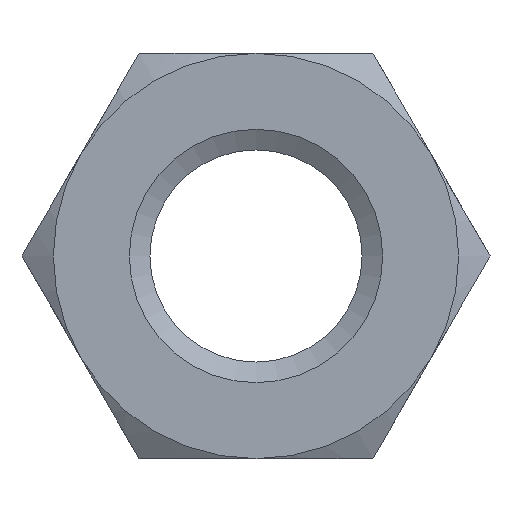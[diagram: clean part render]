
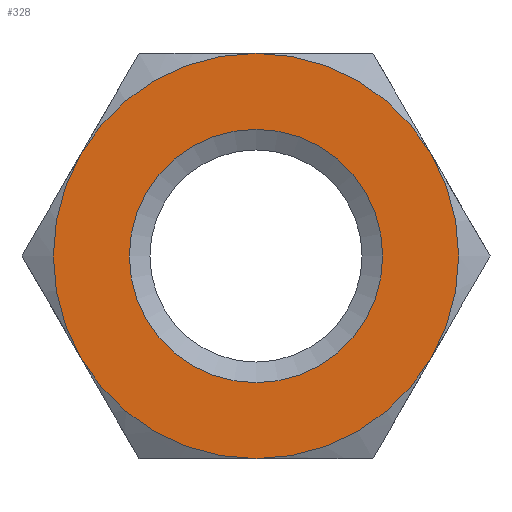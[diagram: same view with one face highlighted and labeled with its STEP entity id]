
A CAD part, left-side view. The second image highlights one B-rep face of the part: STEP entity #328.
In plain terms, the highlighted planar face has unit normal (-1, 0, 0).
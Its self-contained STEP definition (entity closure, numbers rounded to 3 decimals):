
#39=FACE_BOUND('',#76,.T.);
#41=PLANE('',#378);
#52=FACE_OUTER_BOUND('',#75,.T.);
#75=EDGE_LOOP('',(#221,#222,#223,#224,#225,#226));
#76=EDGE_LOOP('',(#227));
#116=CIRCLE('',#373,5.);
#120=CIRCLE('',#379,8.);
#121=CIRCLE('',#380,8.);
#122=CIRCLE('',#381,8.);
#123=CIRCLE('',#382,8.);
#124=CIRCLE('',#383,8.);
#125=CIRCLE('',#384,8.);
#133=VERTEX_POINT('',#505);
#137=VERTEX_POINT('',#517);
#138=VERTEX_POINT('',#518);
#139=VERTEX_POINT('',#520);
#140=VERTEX_POINT('',#522);
#141=VERTEX_POINT('',#524);
#142=VERTEX_POINT('',#526);
#162=EDGE_CURVE('',#133,#133,#116,.T.);
#168=EDGE_CURVE('',#137,#138,#120,.T.);
#169=EDGE_CURVE('',#138,#139,#121,.T.);
#170=EDGE_CURVE('',#139,#140,#122,.T.);
#171=EDGE_CURVE('',#140,#141,#123,.T.);
#172=EDGE_CURVE('',#141,#142,#124,.T.);
#173=EDGE_CURVE('',#142,#137,#125,.T.);
#221=ORIENTED_EDGE('',*,*,#168,.T.);
#222=ORIENTED_EDGE('',*,*,#169,.T.);
#223=ORIENTED_EDGE('',*,*,#170,.T.);
#224=ORIENTED_EDGE('',*,*,#171,.T.);
#225=ORIENTED_EDGE('',*,*,#172,.T.);
#226=ORIENTED_EDGE('',*,*,#173,.T.);
#227=ORIENTED_EDGE('',*,*,#162,.F.);
#328=ADVANCED_FACE('',(#52,#39),#41,.F.);
#373=AXIS2_PLACEMENT_3D('',#506,#416,#417);
#378=AXIS2_PLACEMENT_3D('',#516,#428,#429);
#379=AXIS2_PLACEMENT_3D('',#519,#430,#431);
#380=AXIS2_PLACEMENT_3D('',#521,#432,#433);
#381=AXIS2_PLACEMENT_3D('',#523,#434,#435);
#382=AXIS2_PLACEMENT_3D('',#525,#436,#437);
#383=AXIS2_PLACEMENT_3D('',#527,#438,#439);
#384=AXIS2_PLACEMENT_3D('',#528,#440,#441);
#416=DIRECTION('center_axis',(-1.,0.,0.));
#417=DIRECTION('ref_axis',(0.,0.,-1.));
#428=DIRECTION('center_axis',(1.,0.,0.));
#429=DIRECTION('ref_axis',(0.,0.,-1.));
#430=DIRECTION('center_axis',(-1.,0.,0.));
#431=DIRECTION('ref_axis',(0.,1.,0.));
#432=DIRECTION('center_axis',(-1.,0.,0.));
#433=DIRECTION('ref_axis',(0.,1.,0.));
#434=DIRECTION('center_axis',(-1.,0.,0.));
#435=DIRECTION('ref_axis',(0.,1.,0.));
#436=DIRECTION('center_axis',(-1.,0.,0.));
#437=DIRECTION('ref_axis',(0.,1.,0.));
#438=DIRECTION('center_axis',(-1.,0.,0.));
#439=DIRECTION('ref_axis',(0.,1.,0.));
#440=DIRECTION('center_axis',(-1.,0.,0.));
#441=DIRECTION('ref_axis',(0.,1.,0.));
#505=CARTESIAN_POINT('',(0.,0.,5.));
#506=CARTESIAN_POINT('Origin',(0.,0.,0.));
#516=CARTESIAN_POINT('Origin',(0.,0.,0.));
#517=CARTESIAN_POINT('',(0.,-6.928,-4.));
#518=CARTESIAN_POINT('',(0.,-6.928,4.));
#519=CARTESIAN_POINT('Origin',(0.,0.,0.));
#520=CARTESIAN_POINT('',(0.,0.,8.));
#521=CARTESIAN_POINT('Origin',(0.,0.,0.));
#522=CARTESIAN_POINT('',(0.,6.928,4.));
#523=CARTESIAN_POINT('Origin',(0.,0.,0.));
#524=CARTESIAN_POINT('',(0.,6.928,-4.));
#525=CARTESIAN_POINT('Origin',(0.,0.,0.));
#526=CARTESIAN_POINT('',(0.,0.,-8.));
#527=CARTESIAN_POINT('Origin',(0.,0.,0.));
#528=CARTESIAN_POINT('Origin',(0.,0.,0.));
